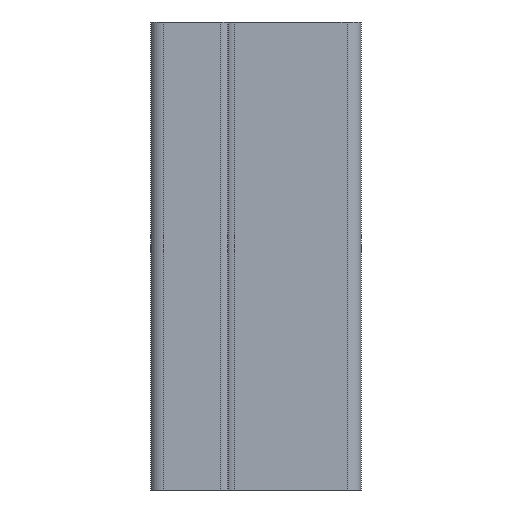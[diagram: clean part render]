
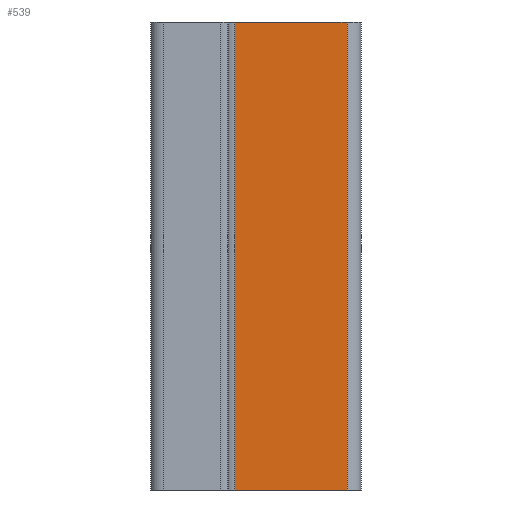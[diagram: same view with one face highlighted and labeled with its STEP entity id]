
A CAD part, left-side view. The second image highlights one B-rep face of the part: STEP entity #539.
In plain terms, the highlighted planar face has unit normal (-1, 0, 0).
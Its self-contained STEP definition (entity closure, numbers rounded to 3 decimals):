
#106 = LINE ( 'NONE', #460, #219 ) ;
#137 = FACE_OUTER_BOUND ( 'NONE', #1328, .T. ) ;
#149 = VECTOR ( 'NONE', #919, 1000. ) ;
#219 = VECTOR ( 'NONE', #1819, 1000. ) ;
#255 = CARTESIAN_POINT ( 'NONE',  ( -17.5, 9.5, 100. ) ) ;
#292 = CARTESIAN_POINT ( 'NONE',  ( -17.5, -9.5, 0. ) ) ;
#305 = DIRECTION ( 'NONE',  ( 0., -1., 0. ) ) ;
#410 = VERTEX_POINT ( 'NONE', #1542 ) ;
#441 = PLANE ( 'NONE',  #2093 ) ;
#460 = CARTESIAN_POINT ( 'NONE',  ( -17.5, -14.5, 100. ) ) ;
#532 = CARTESIAN_POINT ( 'NONE',  ( -17.5, 9.5, 100. ) ) ;
#539 = ADVANCED_FACE ( 'NONE', ( #137 ), #441, .F. ) ;
#602 = VERTEX_POINT ( 'NONE', #255 ) ;
#634 = ORIENTED_EDGE ( 'NONE', *, *, #1142, .T. ) ;
#677 = VERTEX_POINT ( 'NONE', #1291 ) ;
#756 = EDGE_CURVE ( 'NONE', #1849, #410, #106, .T. ) ;
#823 = VECTOR ( 'NONE', #2097, 1000. ) ;
#836 = VECTOR ( 'NONE', #305, 1000. ) ;
#888 = LINE ( 'NONE', #292, #836 ) ;
#919 = DIRECTION ( 'NONE',  ( 0., -1., 0. ) ) ;
#1064 = ORIENTED_EDGE ( 'NONE', *, *, #1926, .T. ) ;
#1142 = EDGE_CURVE ( 'NONE', #602, #677, #1402, .T. ) ;
#1258 = LINE ( 'NONE', #1454, #149 ) ;
#1263 = CARTESIAN_POINT ( 'NONE',  ( -17.5, -9.5, 100. ) ) ;
#1291 = CARTESIAN_POINT ( 'NONE',  ( -17.5, 9.5, 0. ) ) ;
#1328 = EDGE_LOOP ( 'NONE', ( #1064, #2010, #2095, #634 ) ) ;
#1402 = LINE ( 'NONE', #532, #823 ) ;
#1454 = CARTESIAN_POINT ( 'NONE',  ( -17.5, -9.5, 100. ) ) ;
#1542 = CARTESIAN_POINT ( 'NONE',  ( -17.5, -14.5, 0. ) ) ;
#1819 = DIRECTION ( 'NONE',  ( 0., 0., -1. ) ) ;
#1849 = VERTEX_POINT ( 'NONE', #2158 ) ;
#1865 = EDGE_CURVE ( 'NONE', #602, #1849, #1258, .T. ) ;
#1926 = EDGE_CURVE ( 'NONE', #677, #410, #888, .T. ) ;
#2010 = ORIENTED_EDGE ( 'NONE', *, *, #756, .F. ) ;
#2093 = AXIS2_PLACEMENT_3D ( 'NONE', #1263, #2138, #2145 ) ;
#2095 = ORIENTED_EDGE ( 'NONE', *, *, #1865, .F. ) ;
#2097 = DIRECTION ( 'NONE',  ( 0., 0., -1. ) ) ;
#2138 = DIRECTION ( 'NONE',  ( 1., 0., 0. ) ) ;
#2145 = DIRECTION ( 'NONE',  ( 0., 1., 0. ) ) ;
#2158 = CARTESIAN_POINT ( 'NONE',  ( -17.5, -14.5, 100. ) ) ;
